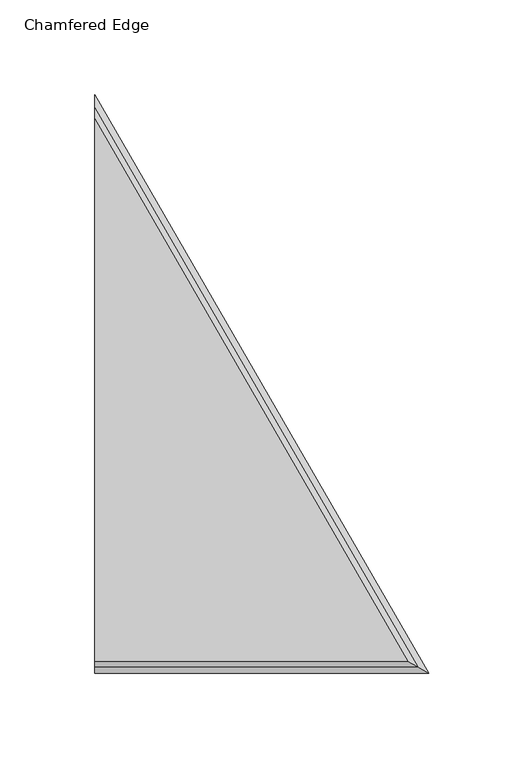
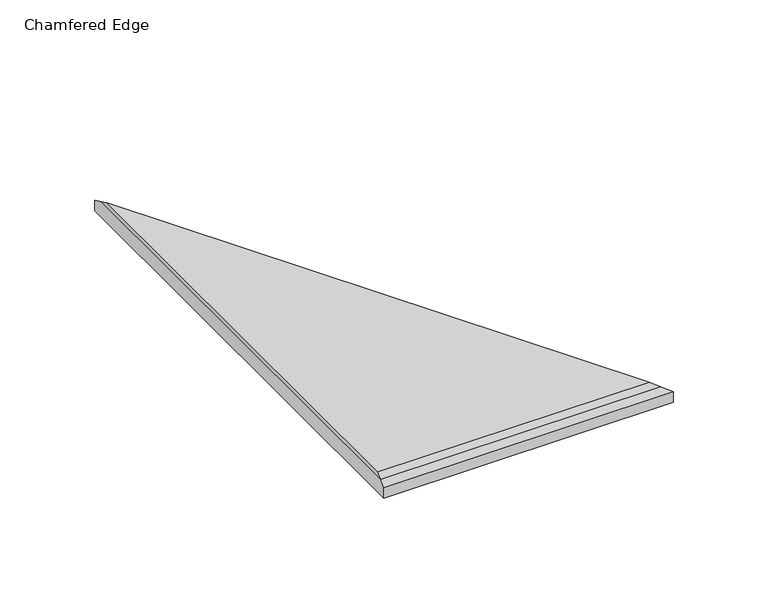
"""IFC4 building model written with IfcOpenShell, lengths in millimetres: proxy geometry, FilzFelt_Triangle_60_Block : Chamfered Edge."""

from ifc_helpers import new_model, si_unit, origin, place, context, project, spatial, faceted_brep, source, transform, mapped, element, save


def chamfered_edge_442b1d23(model_context):
    return source(origin(), model_context, "Body", "Brep", [
        faceted_brep([(0.0, -149.1265625, 10.0210937), (0.0, 145.9621279, 10.0210937), (170.3695349, -149.1265625, 10.0210937), (0.0, 140.0090029, 12.9976563), (0.0, -146.15, 12.9976563), (165.2139774, -146.15, 12.9976563)], [[[0, 1, 2]], [[3, 4, 5]], [[5, 2, 1, 3]], [[2, 5, 4, 0]], [[1, 0, 4, 3]]]),
        faceted_brep([(0.0, 152.7090029, 0.0), (176.2125, -152.5, 0.0), (0.0, -152.5, 0.0), (0.0, 145.9621279, 10.0210937), (0.0, -149.1265625, 10.0210937), (170.3695349, -149.1265625, 10.0210937), (176.2125, -152.5, 6.6476563), (0.0, -152.5, 6.6476563), (0.0, 152.7090029, 6.6476562)], [[[0, 1, 2]], [[3, 4, 5]], [[2, 1, 6, 7]], [[1, 0, 8, 6]], [[5, 6, 8, 3]], [[6, 5, 4, 7]], [[0, 2, 7, 4, 3, 8]]]),
    ])


if __name__ == "__main__":
    model = new_model("IFC4")
    model_context = context("Model", 3, world=origin())
    ifc_project = project(units=[si_unit("LENGTHUNIT", "METRE", prefix="MILLI")], contexts=[model_context])
    site = spatial("IfcSite", under=ifc_project)
    building = spatial("IfcBuilding", under=site)
    placement = place(None, origin())
    chamfered_edge_shape = chamfered_edge_442b1d23(model_context)
    element("IfcBuildingElementProxy", 1, Name="FilzFelt_Triangle_60_Block : Chamfered Edge", ObjectType="FilzFelt_Triangle_60_Block : Chamfered Edge", at=placement, inside=building, context=model_context, shape_type="MappedRepresentation", body=[
        mapped(chamfered_edge_shape, transform((0.0, 0.0, 0.0), x_axis=(1.0, 0.0, 0.0), y_axis=(0.0, 1.0, 0.0), z_axis=(0.0, 0.0, 1.0))),
    ])
    save(model, "model.ifc")
